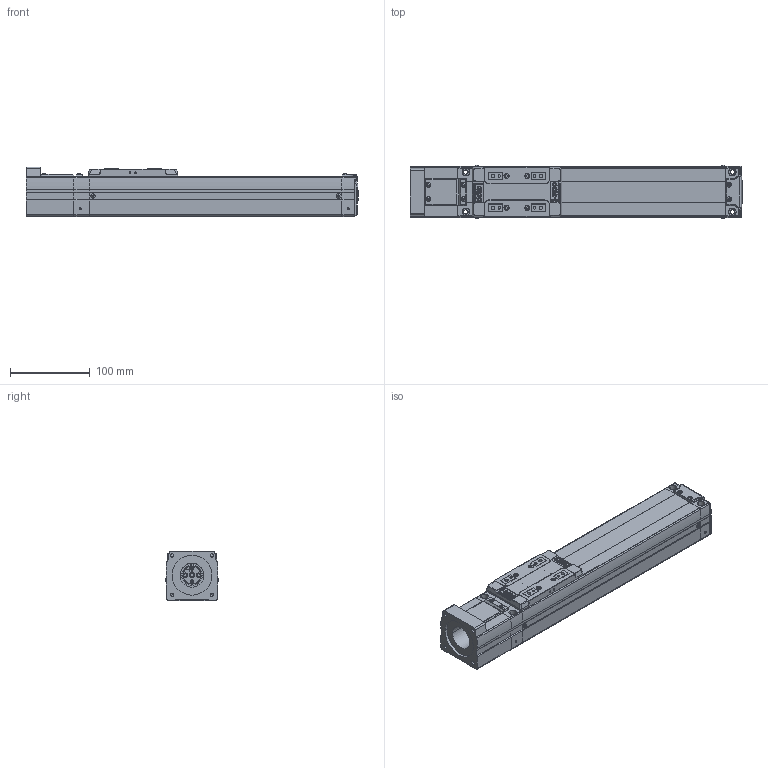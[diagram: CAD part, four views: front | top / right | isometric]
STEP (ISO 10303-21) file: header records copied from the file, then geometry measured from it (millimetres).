
FILE_DESCRIPTION(('STEP AP203'),'1');
FILE_NAME('Z:/Web/3D/SAN65/2012.ver/STP/200/SAN65ㅁㅁ-200S.stp','2014-06-13T05:54:33',(' '),(' '),'Spatial InterOp 3D',' ',' ');
FILE_SCHEMA(('CONFIG_CONTROL_DESIGN'));
Length unit declared in the file: millimetre
Products named in the file (56): 1; 2; 3; 4; 5; 6; 7; 8; 9; 10; 11; 12; 13; 14; 15; 16; 17; 18; 19; 20; 21; 22; 23; 24; 25; 26; 27; 28; 29; 30; 31; 32; 33; 34; 35; 36; 37; 38; 39; 40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
Bounding box: 416.15 x 67.13 x 62 mm (x, y, z)
Volume: 1319295.7 mm3; surface area: 196357.1 mm2
Topology: 56 solids, 56 shells, 2248 faces, 5927 edges, 3840 vertices
Faces by surface type: plane 1036, cylinder 836, cone 286, sphere 36, bspline 28, torus 20, extrusion 6
Full cylindrical faces by diameter (mm): 2.132 x1, 3.5 x2, 6 x2
Entity records: 75699 total; most frequent: CARTESIAN_POINT 15947, DIRECTION 12460, ORIENTED_EDGE 11722, EDGE_CURVE 5861, AXIS2_PLACEMENT_3D 4553, VERTEX_POINT 3839, VECTOR 3354, LINE 3348
